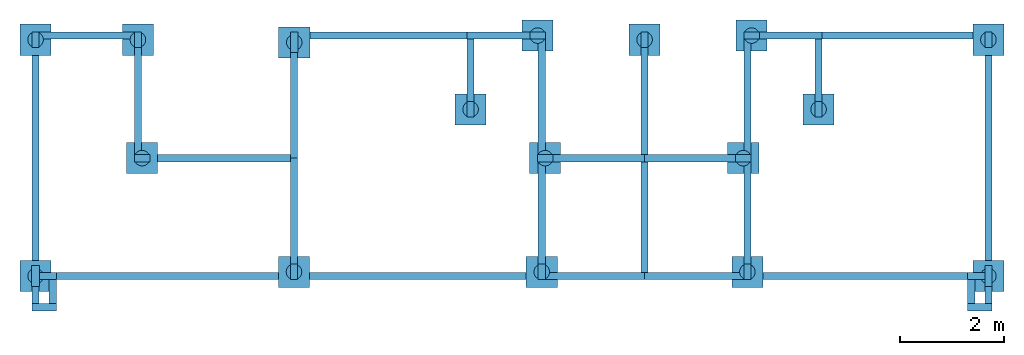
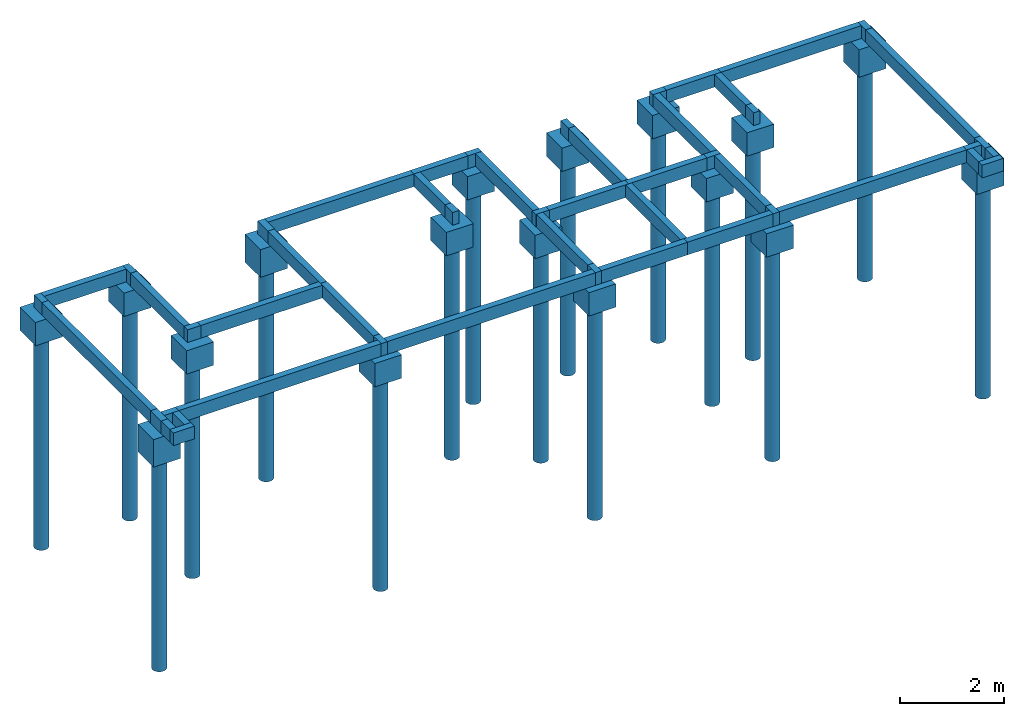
# One storey: 34 beams, 17 columns, 17 footings, 17 piles.
"""IFC4 building model written with IfcOpenShell, lengths in centimetres."""

import ifcopenshell
import ifcopenshell.guid

model = None  # the IFC model being written
_history = None  # IfcOwnerHistory: only IFC2X3 demands one
_inside = {}  # id of a spatial element -> (the spatial element, [elements in it])
_under = {}  # id of a project, library or spatial element -> (it, [spatial elements below it])
_declared = {}  # id of a project -> (the project, [libraries it declares])
_typed = {}  # id of a type object -> (the type object, [elements of that type])
_made_of = {}  # id of a material, layer set ... -> (it, [elements and type objects made of it])


def new_model(schema):
    """Start an empty IFC model of exactly this schema.

    Asked for "IFC4X3", IfcOpenShell would pick the latest addendum, in which some entities
    have other attributes; the version numbers below select the first issue.
    IFC2X3 requires an IfcOwnerHistory on every rooted entity: one is made here for all.
    """
    global model, _history
    if schema == "IFC4X3":
        model = ifcopenshell.file(schema_version=(4, 3, 0, 0))
    else:
        model = ifcopenshell.file(schema=schema)
    _inside.clear()
    _under.clear()
    _declared.clear()
    _typed.clear()
    _made_of.clear()
    _history = None
    if model.schema == "IFC2X3":
        org = make("IfcOrganization", Name="unknown")
        user = make(
            "IfcPersonAndOrganization",
            ThePerson=make("IfcPerson", FamilyName="unknown"),
            TheOrganization=org,
        )
        app = make(
            "IfcApplication",
            ApplicationDeveloper=org,
            Version="unknown",
            ApplicationFullName="unknown",
            ApplicationIdentifier="unknown",
        )
        _history = make(
            "IfcOwnerHistory",
            OwningUser=user,
            OwningApplication=app,
            ChangeAction="ADDED",
            CreationDate=0,
        )
    return model


def make(cls, **values):
    """One entity of the class cls with the attributes given. An attribute that is None is left unset."""
    return model.create_entity(
        cls, **{name: value for name, value in values.items() if value is not None}
    )


def rooted(cls, **values):
    """An entity with a GlobalId (a new one), such as an element, a storey or a relation."""
    return make(cls, GlobalId=ifcopenshell.guid.new(), OwnerHistory=_history, **values)


def si_unit(unit_type, name, prefix=None):
    """IfcSIUnit, for example si_unit("LENGTHUNIT", "METRE", prefix="MILLI")."""
    return make("IfcSIUnit", UnitType=unit_type, Prefix=prefix, Name=name)


def derived_unit(unit_type, elements):
    """IfcDerivedUnit: a product of units, each with its exponent."""
    return make(
        "IfcDerivedUnit",
        Elements=[
            make("IfcDerivedUnitElement", Unit=unit, Exponent=power)
            for unit, power in elements
        ],
        UnitType=unit_type,
    )


def assignment(units):
    """IfcUnitAssignment: the units of a project."""
    return None if units is None else make("IfcUnitAssignment", Units=units)


def point(xyz):
    """IfcCartesianPoint."""
    return None if xyz is None else make("IfcCartesianPoint", Coordinates=xyz)


def direction(xyz):
    """IfcDirection."""
    return None if xyz is None else make("IfcDirection", DirectionRatios=xyz)


def frame(location, z_axis=None, x_axis=None):
    """IfcAxis2Placement3D, a coordinate frame: its origin and axes. An axis left out is left unset."""
    return make(
        "IfcAxis2Placement3D",
        Location=point(location),
        Axis=direction(z_axis),
        RefDirection=direction(x_axis),
    )


def frame_2d(location, x_axis=None):
    """IfcAxis2Placement2D, a coordinate frame in the plane: its origin and x axis."""
    return make(
        "IfcAxis2Placement2D", Location=point(location), RefDirection=direction(x_axis)
    )


def origin_with_axes():
    """The frame at (0, 0, 0) with the z axis (0, 0, 1) and the x axis (1, 0, 0) written out."""
    return frame((0.0, 0.0, 0.0), z_axis=(0.0, 0.0, 1.0), x_axis=(1.0, 0.0, 0.0))


def origin_2d_with_axis():
    """The frame at (0, 0) in the plane with the x axis (1, 0) written out."""
    return frame_2d((0.0, 0.0), x_axis=(1.0, 0.0))


def place(relative_to, where):
    """IfcLocalPlacement: puts the frame where relative to a parent placement (None: the world)."""
    return make(
        "IfcLocalPlacement", PlacementRelTo=relative_to, RelativePlacement=where
    )


def context(
    kind, dimensions, precision=None, world=None, true_north=None, identifier=None
):
    """IfcGeometricRepresentationContext, for example the 3D "Model" context."""
    return make(
        "IfcGeometricRepresentationContext",
        ContextIdentifier=identifier,
        ContextType=kind,
        CoordinateSpaceDimension=dimensions,
        Precision=precision,
        WorldCoordinateSystem=world,
        TrueNorth=true_north,
    )


def project(units=None, contexts=None):
    """IfcProject with its units and contexts."""
    return rooted(
        "IfcProject",
        Name="project",
        RepresentationContexts=contexts,
        UnitsInContext=assignment(units),
    )


def spatial(cls, under=None, at=None, **own):
    """A site, building, storey or space (cls), placed at a placement, below another one or the project."""
    s = rooted(cls, ObjectPlacement=at, **own)
    if under is not None:
        _under.setdefault(under.id(), (under, []))[1].append(s)
    return s


def profile(cls, at=None, kind="AREA", **sizes):
    """A parametric profile (cls). Its sizes go by their IFC names, for example OverallWidth=200.0."""
    return make(cls, ProfileType=kind, Position=at, **sizes)


def rectangle(**sizes):
    """IfcRectangleProfileDef."""
    return profile("IfcRectangleProfileDef", **sizes)


def circle(**sizes):
    """IfcCircleProfileDef."""
    return profile("IfcCircleProfileDef", **sizes)


def extrude(swept, where, along, depth):
    """IfcExtrudedAreaSolid: the profile swept, set in the frame where, extruded along a direction by depth."""
    return make(
        "IfcExtrudedAreaSolid",
        SweptArea=swept,
        Position=where,
        ExtrudedDirection=direction(along),
        Depth=depth,
    )


def faces_of(points, faces, orient=None, outer=None):
    """IfcFace entities. A face is a list of loops; a loop is a list of indices into points, from 0.

    orient and outer hold one flag for each loop. By default every Orientation is true, the
    first loop of a face is its IfcFaceOuterBound and the others are IfcFaceBound.
    """
    made = []
    for i, loops in enumerate(faces):
        bounds = []
        for j, loop in enumerate(loops):
            is_outer = j == 0 if outer is None else outer[i][j]
            bounds.append(
                make(
                    "IfcFaceOuterBound" if is_outer else "IfcFaceBound",
                    Bound=make("IfcPolyLoop", Polygon=[points[k] for k in loop]),
                    Orientation=True if orient is None else orient[i][j],
                )
            )
        made.append(make("IfcFace", Bounds=bounds))
    return made


def faceted_brep(points, faces, orient=None, outer=None, voids=None):
    """IfcFacetedBrep: a solid bounded by flat faces; with voids (closed shells), ...WithVoids."""
    shared = [point(p) for p in points]
    hull = make("IfcClosedShell", CfsFaces=faces_of(shared, faces, orient, outer))
    if voids is None:
        return make("IfcFacetedBrep", Outer=hull)
    return make(
        "IfcFacetedBrepWithVoids",
        Outer=hull,
        Voids=[
            make(cls, CfsFaces=faces_of(shared, fs, o, b)) for cls, fs, o, b in voids
        ],
    )


def shape(context_of_items, identifier, shape_type, items):
    """IfcShapeRepresentation: the items that make up one representation, for example the "Body"."""
    return make(
        "IfcShapeRepresentation",
        ContextOfItems=context_of_items,
        RepresentationIdentifier=identifier,
        RepresentationType=shape_type,
        Items=items,
    )


def material(Name=None, Category=None):
    """IfcMaterial."""
    return make("IfcMaterial", Name=Name, Category=Category)


def made_of(thing, what):
    """Note that an element or type object is made of a material, layer set ...; save() writes the relation."""
    if what is not None:
        _made_of.setdefault(what.id(), (what, []))[1].append(thing)
    return thing


def element(
    cls,
    number,
    at=None,
    inside=None,
    cuts=None,
    type_object=None,
    material=None,
    context=None,
    identifier="Body",
    shape_type=None,
    held_by="IfcProductDefinitionShape",
    body=None,
    shapes=None,
    **own,
):
    """One element of the class cls, such as IfcWall. Its Tag is "e" and its number.

    at: its placement. inside: the storey or other place that contains it. cuts: it is an
    opening in that element (IfcRelVoidsElement). A single representation is given by context,
    identifier, shape_type and body (its items); several are given by shapes. held_by: the class
    of the entity that holds the representations. save() writes the other relations.
    """
    e = rooted(cls, Tag="e%d" % number, ObjectPlacement=at, **own)
    if body is not None:
        shapes = [shape(context, identifier, shape_type, body)]
    if shapes is not None:
        e.Representation = make(held_by, Representations=shapes)
    if inside is not None:
        _inside.setdefault(inside.id(), (inside, []))[1].append(e)
    if cuts is not None:
        rooted(
            "IfcRelVoidsElement", RelatingBuildingElement=cuts, RelatedOpeningElement=e
        )
    if type_object is not None:
        _typed.setdefault(type_object.id(), (type_object, []))[1].append(e)
    return made_of(e, material)


def aggregate(whole, parts):
    """IfcRelAggregates: a whole, such as a stair, and the parts it consists of."""
    return rooted("IfcRelAggregates", RelatingObject=whole, RelatedObjects=parts)


def save(model, path):
    """Write the relations noted so far, then the file.

    IfcRelAggregates (storeys below a building ...), IfcRelContainedInSpatialStructure (elements
    in a storey), IfcRelDefinesByType, IfcRelAssociatesMaterial and IfcRelDeclares: one each for
    every whole, place, type object, material and project.
    """
    for whole, parts in _under.values():
        aggregate(whole, parts)
    for where, things in _inside.values():
        rooted(
            "IfcRelContainedInSpatialStructure",
            RelatedElements=things,
            RelatingStructure=where,
        )
    for kind, things in _typed.values():
        rooted("IfcRelDefinesByType", RelatedObjects=things, RelatingType=kind)
    for what, things in _made_of.values():
        rooted("IfcRelAssociatesMaterial", RelatedObjects=things, RelatingMaterial=what)
    for by, libraries in _declared.values():
        rooted("IfcRelDeclares", RelatingContext=by, RelatedDefinitions=libraries)
    model.write(path)


model = new_model("IFC4")

# Units and contexts
model_context = context("Model", 3, precision=1e-05, world=origin_with_axes(), identifier="Body")
ifc_project = project(units=[si_unit("LENGTHUNIT", "METRE", prefix="CENTI"), si_unit("VOLUMEUNIT", "CUBIC_METRE"), si_unit("AREAUNIT", "SQUARE_METRE"), si_unit("POWERUNIT", "WATT"), si_unit("LUMINOUSFLUXUNIT", "LUMEN"), si_unit("ELECTRICCURRENTUNIT", "AMPERE"), si_unit("PRESSUREUNIT", "PASCAL", prefix="KILO"), si_unit("MASSUNIT", "GRAM", prefix="KILO"), si_unit("PLANEANGLEUNIT", "RADIAN"), derived_unit("VOLUMETRICFLOWRATEUNIT", [(si_unit("LENGTHUNIT", "METRE"), 3), (si_unit("TIMEUNIT", "SECOND"), -1)])], contexts=[model_context])

# Site, building, storey
site_placement = place(None, origin_with_axes())
site = spatial("IfcSite", under=ifc_project, at=site_placement)
building_placement = place(site_placement, frame((0.0, 0.0, 2.0)))
building = spatial("IfcBuilding", under=site, at=building_placement)
storey_placement = place(building_placement, origin_with_axes())
storey = spatial("IfcBuildingStorey", under=building, at=storey_placement, Name="BALDRAME (FUNDAÇÃO)", CompositionType="ELEMENT", Elevation=2.0)

# Footings
ifc_material = material(Name="Concreto")
footing_1_placement = place(storey_placement, frame((8.5, 523.64, -30.0), z_axis=(0.0, 0.0, 1.0), x_axis=(1.0, 0.0, 0.0)))
element("IfcFooting", 1, at=footing_1_placement, inside=storey, material=ifc_material, Name="P1", context=model_context, shape_type="SolidModel", body=[
    faceted_brep([(30.0, 30.0, -55.0), (30.0, -30.0, -55.0), (-30.0, -30.0, -55.0), (-30.0, 30.0, -55.0), (-30.0, 30.0, 0.0), (-30.0, -30.0, 0.0), (30.0, -30.0, 0.0), (30.0, 30.0, 0.0)], [[[0, 1, 2, 3]], [[4, 5, 6, 7]], [[4, 3, 5]], [[3, 2, 5]], [[5, 2, 6]], [[2, 1, 6]], [[6, 1, 7]], [[1, 0, 7]], [[7, 0, 4]], [[0, 3, 4]]]),
])
for number, where, z_axis, x_axis, name in (
    (2, (213.55, 295.57, -30.0), (0.0, 0.0, 1.0), (1.0, 0.0, 0.0), "P10"),
    (3, (989.78, 295.58, -30.0), (0.0, 0.0, 1.0), (1.0, 0.0, 0.0), "P11"),
    (4, (1371.38, 295.58, -30.0), (0.0, 0.0, 1.0), (1.0, 0.0, 0.0), "P12"),
):
    element("IfcFooting", number, at=place(storey_placement, frame(where, z_axis=z_axis, x_axis=x_axis)), inside=storey, material=ifc_material, Name=name, context=model_context, shape_type="SolidModel", body=[
        faceted_brep([(30.0, -30.0, -55.0), (-30.0, -30.0, -55.0), (-30.0, 30.0, -55.0), (30.0, 30.0, -55.0), (30.0, 30.0, 0.0), (-30.0, 30.0, 0.0), (-30.0, -30.0, 0.0), (30.0, -30.0, 0.0)], [[[0, 1, 2, 3]], [[4, 5, 6, 7]], [[4, 3, 5]], [[3, 2, 5]], [[5, 2, 6]], [[2, 1, 6]], [[6, 1, 7]], [[1, 0, 7]], [[7, 0, 4]], [[0, 3, 4]]]),
    ])
footing_2_placement = place(storey_placement, frame((8.5, 68.52, -30.0), z_axis=(0.0, 0.0, 1.0), x_axis=(1.0, 0.0, 0.0)))
element("IfcFooting", 5, at=footing_2_placement, inside=storey, material=ifc_material, Name="P13", context=model_context, shape_type="SolidModel", body=[
    faceted_brep([(-30.0, -30.0, -65.0), (-30.0, 30.0, -65.0), (30.0, 30.0, -65.0), (30.0, -30.0, -65.0), (30.0, -30.0, 0.0), (30.0, 30.0, 0.0), (-30.0, 30.0, 0.0), (-30.0, -30.0, 0.0)], [[[0, 1, 2, 3]], [[4, 5, 6, 7]], [[4, 3, 5]], [[3, 2, 5]], [[5, 2, 6]], [[2, 1, 6]], [[6, 1, 7]], [[1, 0, 7]], [[7, 0, 4]], [[0, 3, 4]]]),
])
footing_3_placement = place(storey_placement, frame((506.17, 76.52, -30.0), z_axis=(0.0, 0.0, 1.0), x_axis=(1.0, 0.0, 0.0)))
element("IfcFooting", 6, at=footing_3_placement, inside=storey, material=ifc_material, Name="P14", context=model_context, shape_type="SolidModel", body=[
    faceted_brep([(-30.0, -30.0, -55.0), (-30.0, 30.0, -55.0), (30.0, 30.0, -55.0), (30.0, -30.0, -55.0), (30.0, -30.0, 0.0), (30.0, 30.0, 0.0), (-30.0, 30.0, 0.0), (-30.0, -30.0, 0.0)], [[[0, 1, 2, 3]], [[4, 5, 6, 7]], [[4, 3, 5]], [[3, 2, 5]], [[5, 2, 6]], [[2, 1, 6]], [[6, 1, 7]], [[1, 0, 7]], [[7, 0, 4]], [[0, 3, 4]]]),
])
footing_4_placement = place(storey_placement, frame((983.28, 76.52, -30.0), z_axis=(0.0, 0.0, 1.0), x_axis=(1.0, 0.0, 0.0)))
element("IfcFooting", 7, at=footing_4_placement, inside=storey, material=ifc_material, Name="P15", context=model_context, shape_type="SolidModel", body=[
    faceted_brep([(30.0, 30.0, -55.0), (30.0, -30.0, -55.0), (-30.0, -30.0, -55.0), (-30.0, 30.0, -55.0), (-30.0, 30.0, 0.0), (-30.0, -30.0, 0.0), (30.0, -30.0, 0.0), (30.0, 30.0, 0.0)], [[[0, 1, 2, 3]], [[4, 5, 6, 7]], [[4, 3, 5]], [[3, 2, 5]], [[5, 2, 6]], [[2, 1, 6]], [[6, 1, 7]], [[1, 0, 7]], [[7, 0, 4]], [[0, 3, 4]]]),
])
footing_5_placement = place(storey_placement, frame((1379.38, 76.52, -30.0), z_axis=(0.0, 0.0, 1.0), x_axis=(1.0, 0.0, 0.0)))
element("IfcFooting", 8, at=footing_5_placement, inside=storey, material=ifc_material, Name="P16", context=model_context, shape_type="SolidModel", body=[
    faceted_brep([(-30.0, -30.0, -55.0), (-30.0, 30.0, -55.0), (30.0, 30.0, -55.0), (30.0, -30.0, -55.0), (30.0, -30.0, 0.0), (30.0, 30.0, 0.0), (-30.0, 30.0, 0.0), (-30.0, -30.0, 0.0)], [[[0, 1, 2, 3]], [[4, 5, 6, 7]], [[4, 3, 5]], [[3, 2, 5]], [[5, 2, 6]], [[2, 1, 6]], [[6, 1, 7]], [[1, 0, 7]], [[7, 0, 4]], [[0, 3, 4]]]),
])
footing_6_placement = place(storey_placement, frame((1843.5, 68.52, -30.0), z_axis=(0.0, 0.0, 1.0), x_axis=(1.0, 0.0, 0.0)))
element("IfcFooting", 9, at=footing_6_placement, inside=storey, material=ifc_material, Name="P17", context=model_context, shape_type="SolidModel", body=[
    faceted_brep([(-30.0, -30.0, -65.0), (-30.0, 30.0, -65.0), (30.0, 30.0, -65.0), (30.0, -30.0, -65.0), (30.0, -30.0, 0.0), (30.0, 30.0, 0.0), (-30.0, 30.0, 0.0), (-30.0, -30.0, 0.0)], [[[0, 1, 2, 3]], [[4, 5, 6, 7]], [[4, 3, 5]], [[3, 2, 5]], [[5, 2, 6]], [[2, 1, 6]], [[6, 1, 7]], [[1, 0, 7]], [[7, 0, 4]], [[0, 3, 4]]]),
])
footing_7_placement = place(storey_placement, frame((205.55, 523.63, -30.0), z_axis=(0.0, 0.0, 1.0), x_axis=(1.0, 0.0, 0.0)))
element("IfcFooting", 10, at=footing_7_placement, inside=storey, material=ifc_material, Name="P2", context=model_context, shape_type="SolidModel", body=[
    faceted_brep([(-30.0, -30.0, -55.0), (-30.0, 30.0, -55.0), (30.0, 30.0, -55.0), (30.0, -30.0, -55.0), (30.0, -30.0, 0.0), (30.0, 30.0, 0.0), (-30.0, 30.0, 0.0), (-30.0, -30.0, 0.0)], [[[0, 1, 2, 3]], [[4, 5, 6, 7]], [[4, 3, 5]], [[3, 2, 5]], [[5, 2, 6]], [[2, 1, 6]], [[6, 1, 7]], [[1, 0, 7]], [[7, 0, 4]], [[0, 3, 4]]]),
])
footing_8_placement = place(storey_placement, frame((506.65, 518.63, -30.0), z_axis=(0.0, 0.0, 1.0), x_axis=(1.0, 0.0, 0.0)))
element("IfcFooting", 11, at=footing_8_placement, inside=storey, material=ifc_material, Name="P3", context=model_context, shape_type="SolidModel", body=[
    faceted_brep([(30.0, 30.0, -65.0), (30.0, -30.0, -65.0), (-30.0, -30.0, -65.0), (-30.0, 30.0, -65.0), (-30.0, 30.0, 0.0), (-30.0, -30.0, 0.0), (30.0, -30.0, 0.0), (30.0, 30.0, 0.0)], [[[0, 1, 2, 3]], [[4, 5, 6, 7]], [[4, 3, 5]], [[3, 2, 5]], [[5, 2, 6]], [[2, 1, 6]], [[6, 1, 7]], [[1, 0, 7]], [[7, 0, 4]], [[0, 3, 4]]]),
])
footing_9_placement = place(storey_placement, frame((975.28, 531.64, -30.0), z_axis=(0.0, 0.0, 1.0), x_axis=(1.0, 0.0, 0.0)))
element("IfcFooting", 12, at=footing_9_placement, inside=storey, material=ifc_material, Name="P4", context=model_context, shape_type="SolidModel", body=[
    faceted_brep([(30.0, -30.0, -55.0), (-30.0, -30.0, -55.0), (-30.0, 30.0, -55.0), (30.0, 30.0, -55.0), (30.0, 30.0, 0.0), (-30.0, 30.0, 0.0), (-30.0, -30.0, 0.0), (30.0, -30.0, 0.0)], [[[0, 1, 2, 3]], [[4, 5, 6, 7]], [[4, 3, 5]], [[3, 2, 5]], [[5, 2, 6]], [[2, 1, 6]], [[6, 1, 7]], [[1, 0, 7]], [[7, 0, 4]], [[0, 3, 4]]]),
])
footing_10_placement = place(storey_placement, frame((1181.33, 523.64, -30.0), z_axis=(0.0, 0.0, 1.0), x_axis=(1.0, 0.0, 0.0)))
element("IfcFooting", 13, at=footing_10_placement, inside=storey, material=ifc_material, Name="P5", context=model_context, shape_type="SolidModel", body=[
    faceted_brep([(30.0, 30.0, -55.0), (30.0, -30.0, -55.0), (-30.0, -30.0, -55.0), (-30.0, 30.0, -55.0), (-30.0, 30.0, 0.0), (-30.0, -30.0, 0.0), (30.0, -30.0, 0.0), (30.0, 30.0, 0.0)], [[[0, 1, 2, 3]], [[4, 5, 6, 7]], [[4, 3, 5]], [[3, 2, 5]], [[5, 2, 6]], [[2, 1, 6]], [[6, 1, 7]], [[1, 0, 7]], [[7, 0, 4]], [[0, 3, 4]]]),
])
footing_11_placement = place(storey_placement, frame((1387.38, 531.64, -30.0), z_axis=(0.0, 0.0, 1.0), x_axis=(1.0, 0.0, 0.0)))
element("IfcFooting", 14, at=footing_11_placement, inside=storey, material=ifc_material, Name="P6", context=model_context, shape_type="SolidModel", body=[
    faceted_brep([(30.0, -30.0, -55.0), (-30.0, -30.0, -55.0), (-30.0, 30.0, -55.0), (30.0, 30.0, -55.0), (30.0, 30.0, 0.0), (-30.0, 30.0, 0.0), (-30.0, -30.0, 0.0), (30.0, -30.0, 0.0)], [[[0, 1, 2, 3]], [[4, 5, 6, 7]], [[4, 3, 5]], [[3, 2, 5]], [[5, 2, 6]], [[2, 1, 6]], [[6, 1, 7]], [[1, 0, 7]], [[7, 0, 4]], [[0, 3, 4]]]),
])
footing_12_placement = place(storey_placement, frame((1843.5, 523.64, -30.0), z_axis=(0.0, 0.0, 1.0), x_axis=(1.0, 0.0, 0.0)))
element("IfcFooting", 15, at=footing_12_placement, inside=storey, material=ifc_material, Name="P7", context=model_context, shape_type="SolidModel", body=[
    faceted_brep([(30.0, 30.0, -65.0), (30.0, -30.0, -65.0), (-30.0, -30.0, -65.0), (-30.0, 30.0, -65.0), (-30.0, 30.0, 0.0), (-30.0, -30.0, 0.0), (30.0, -30.0, 0.0), (30.0, 30.0, 0.0)], [[[0, 1, 2, 3]], [[4, 5, 6, 7]], [[4, 3, 5]], [[3, 2, 5]], [[5, 2, 6]], [[2, 1, 6]], [[6, 1, 7]], [[1, 0, 7]], [[7, 0, 4]], [[0, 3, 4]]]),
])
footing_13_placement = place(storey_placement, frame((846.24, 389.59, -30.0), z_axis=(0.0, 0.0, 1.0), x_axis=(1.0, 0.0, 0.0)))
element("IfcFooting", 16, at=footing_13_placement, inside=storey, material=ifc_material, Name="P8", context=model_context, shape_type="SolidModel", body=[
    faceted_brep([(30.0, 30.0, -55.0), (30.0, -30.0, -55.0), (-30.0, -30.0, -55.0), (-30.0, 30.0, -55.0), (-30.0, 30.0, 0.0), (-30.0, -30.0, 0.0), (30.0, -30.0, 0.0), (30.0, 30.0, 0.0)], [[[0, 1, 2, 3]], [[4, 5, 6, 7]], [[4, 3, 5]], [[3, 2, 5]], [[5, 2, 6]], [[2, 1, 6]], [[6, 1, 7]], [[1, 0, 7]], [[7, 0, 4]], [[0, 3, 4]]]),
])
footing_14_placement = place(storey_placement, frame((1516.42, 389.59, -30.0), z_axis=(0.0, 0.0, 1.0), x_axis=(1.0, 0.0, 0.0)))
element("IfcFooting", 17, at=footing_14_placement, inside=storey, material=ifc_material, Name="P9", context=model_context, shape_type="SolidModel", body=[
    faceted_brep([(-30.0, -30.0, -55.0), (-30.0, 30.0, -55.0), (30.0, 30.0, -55.0), (30.0, -30.0, -55.0), (30.0, -30.0, 0.0), (30.0, 30.0, 0.0), (-30.0, 30.0, 0.0), (-30.0, -30.0, 0.0)], [[[0, 1, 2, 3]], [[4, 5, 6, 7]], [[4, 3, 5]], [[3, 2, 5]], [[5, 2, 6]], [[2, 1, 6]], [[6, 1, 7]], [[1, 0, 7]], [[7, 0, 4]], [[0, 3, 4]]]),
])

# Piles
for number, where, z_axis, x_axis, name in (
    (18, (8.5, 523.64, -70.0), (0.0, 0.0, 1.0), (1.0, 0.0, 0.0), "E1-1"),
    (19, (213.55, 295.57, -70.0), (0.0, 0.0, 1.0), (1.0, 0.0, 0.0), "E10-1"),
    (20, (989.78, 295.58, -70.0), (0.0, 0.0, 1.0), (1.0, 0.0, 0.0), "E11-1"),
    (21, (1371.38, 295.58, -70.0), (0.0, 0.0, 1.0), (1.0, 0.0, 0.0), "E12-1"),
    (22, (8.5, 68.52, -80.0), (0.0, 0.0, 1.0), (1.0, 0.0, 0.0), "E13-1"),
    (23, (506.17, 76.52, -70.0), (0.0, 0.0, 1.0), (1.0, 0.0, 0.0), "E14-1"),
    (24, (983.28, 76.52, -70.0), (0.0, 0.0, 1.0), (1.0, 0.0, 0.0), "E15-1"),
    (25, (1379.38, 76.52, -70.0), (0.0, 0.0, 1.0), (1.0, 0.0, 0.0), "E16-1"),
    (26, (1843.5, 68.52, -80.0), (0.0, 0.0, 1.0), (1.0, 0.0, 0.0), "E17-1"),
    (27, (205.55, 523.63, -70.0), (0.0, 0.0, 1.0), (1.0, 0.0, 0.0), "E2-1"),
    (28, (506.65, 518.63, -80.0), (0.0, 0.0, 1.0), (1.0, 0.0, 0.0), "E3-1"),
    (29, (975.28, 531.64, -70.0), (0.0, 0.0, 1.0), (1.0, 0.0, 0.0), "E4-1"),
    (30, (1181.33, 523.64, -70.0), (0.0, 0.0, 1.0), (1.0, 0.0, 0.0), "E5-1"),
    (31, (1387.38, 531.64, -70.0), (0.0, 0.0, 1.0), (1.0, 0.0, 0.0), "E6-1"),
    (32, (1843.5, 523.64, -80.0), (0.0, 0.0, 1.0), (1.0, 0.0, 0.0), "E7-1"),
    (33, (846.24, 389.59, -70.0), (0.0, 0.0, 1.0), (1.0, 0.0, 0.0), "E8-1"),
    (34, (1516.42, 389.59, -70.0), (0.0, 0.0, 1.0), (1.0, 0.0, 0.0), "E9-1"),
):
    element("IfcPile", number, at=place(storey_placement, frame(where, z_axis=z_axis, x_axis=x_axis)), inside=storey, material=ifc_material, Name=name, context=model_context, shape_type="SweptSolid", body=[
        extrude(circle(Radius=15.0, at=origin_2d_with_axis()), frame((0.0, 0.0, -515.0), z_axis=(0.0, 0.0, 1.0), x_axis=(1.0, 0.0, 0.0)), (0.0, 0.0, 1.0), 515.0),
    ])

# Columns
column_1_placement = place(storey_placement, frame((8.5, 523.64, 0.0), z_axis=(0.0, 0.0, 1.0), x_axis=(1.0, 0.0, 0.0)))
element("IfcColumn", 35, at=column_1_placement, inside=storey, material=ifc_material, Name="P1", context=model_context, shape_type="SolidModel", body=[
    extrude(rectangle(XDim=14.0, YDim=30.0, at=origin_2d_with_axis()), frame((0.0, 0.0, -30.0), z_axis=(0.0, 0.0, 1.0), x_axis=(1.0, 0.0, 0.0)), (0.0, 0.0, 1.0), 30.0),
])
for number, where, z_axis, x_axis, name in (
    (36, (213.55, 295.57, 0.0), (0.0, 0.0, 1.0), (1.0, 0.0, 0.0), "P10"),
    (37, (989.78, 295.58, 0.0), (0.0, 0.0, 1.0), (1.0, 0.0, 0.0), "P11"),
    (38, (1371.38, 295.58, 0.0), (0.0, 0.0, 1.0), (1.0, 0.0, 0.0), "P12"),
):
    element("IfcColumn", number, at=place(storey_placement, frame(where, z_axis=z_axis, x_axis=x_axis)), inside=storey, material=ifc_material, Name=name, context=model_context, shape_type="SolidModel", body=[
        extrude(rectangle(XDim=14.0, YDim=30.0, at=origin_2d_with_axis()), frame((0.0, 0.0, -30.0), z_axis=(0.0, 0.0, 1.0), x_axis=(0.0, -1.0, 0.0)), (0.0, 0.0, 1.0), 30.0),
    ])
column_2_placement = place(storey_placement, frame((8.5, 68.52, 0.0), z_axis=(0.0, 0.0, 1.0), x_axis=(1.0, 0.0, 0.0)))
element("IfcColumn", 39, at=column_2_placement, inside=storey, material=ifc_material, Name="P13", context=model_context, shape_type="SolidModel", body=[
    extrude(rectangle(XDim=15.0, YDim=40.0, at=origin_2d_with_axis()), frame((0.0, 0.0, -30.0), z_axis=(0.0, 0.0, 1.0), x_axis=(-1.0, 0.0, 0.0)), (0.0, 0.0, 1.0), 30.0),
])
column_3_placement = place(storey_placement, frame((506.17, 76.52, 0.0), z_axis=(0.0, 0.0, 1.0), x_axis=(1.0, 0.0, 0.0)))
element("IfcColumn", 40, at=column_3_placement, inside=storey, material=ifc_material, Name="P14", context=model_context, shape_type="SolidModel", body=[
    extrude(rectangle(XDim=14.0, YDim=30.0, at=origin_2d_with_axis()), frame((0.0, 0.0, -30.0), z_axis=(0.0, 0.0, 1.0), x_axis=(-1.0, 0.0, 0.0)), (0.0, 0.0, 1.0), 30.0),
])
column_4_placement = place(storey_placement, frame((983.28, 76.52, 0.0), z_axis=(0.0, 0.0, 1.0), x_axis=(1.0, 0.0, 0.0)))
element("IfcColumn", 41, at=column_4_placement, inside=storey, material=ifc_material, Name="P15", context=model_context, shape_type="SolidModel", body=[
    extrude(rectangle(XDim=14.0, YDim=30.0, at=origin_2d_with_axis()), frame((0.0, 0.0, -30.0), z_axis=(0.0, 0.0, 1.0), x_axis=(1.0, 0.0, 0.0)), (0.0, 0.0, 1.0), 30.0),
])
column_5_placement = place(storey_placement, frame((1379.38, 76.52, 0.0), z_axis=(0.0, 0.0, 1.0), x_axis=(1.0, 0.0, 0.0)))
element("IfcColumn", 42, at=column_5_placement, inside=storey, material=ifc_material, Name="P16", context=model_context, shape_type="SolidModel", body=[
    extrude(rectangle(XDim=14.0, YDim=30.0, at=origin_2d_with_axis()), frame((0.0, 0.0, -30.0), z_axis=(0.0, 0.0, 1.0), x_axis=(-1.0, 0.0, 0.0)), (0.0, 0.0, 1.0), 30.0),
])
column_6_placement = place(storey_placement, frame((1843.5, 68.52, 0.0), z_axis=(0.0, 0.0, 1.0), x_axis=(1.0, 0.0, 0.0)))
element("IfcColumn", 43, at=column_6_placement, inside=storey, material=ifc_material, Name="P17", context=model_context, shape_type="SolidModel", body=[
    extrude(rectangle(XDim=14.0, YDim=40.0, at=origin_2d_with_axis()), frame((0.0, 0.0, -30.0), z_axis=(0.0, 0.0, 1.0), x_axis=(-1.0, 0.0, 0.0)), (0.0, 0.0, 1.0), 30.0),
])
column_7_placement = place(storey_placement, frame((205.55, 523.63, 0.0), z_axis=(0.0, 0.0, 1.0), x_axis=(1.0, 0.0, 0.0)))
element("IfcColumn", 44, at=column_7_placement, inside=storey, material=ifc_material, Name="P2", context=model_context, shape_type="SolidModel", body=[
    extrude(rectangle(XDim=14.0, YDim=30.0, at=origin_2d_with_axis()), frame((0.0, 0.0, -30.0), z_axis=(0.0, 0.0, 1.0), x_axis=(-1.0, 0.0, 0.0)), (0.0, 0.0, 1.0), 30.0),
])
column_8_placement = place(storey_placement, frame((506.65, 518.63, 0.0), z_axis=(0.0, 0.0, 1.0), x_axis=(1.0, 0.0, 0.0)))
element("IfcColumn", 45, at=column_8_placement, inside=storey, material=ifc_material, Name="P3", context=model_context, shape_type="SolidModel", body=[
    extrude(rectangle(XDim=15.0, YDim=40.0, at=origin_2d_with_axis()), frame((0.0, 0.0, -30.0), z_axis=(0.0, 0.0, 1.0), x_axis=(1.0, 0.0, 0.0)), (0.0, 0.0, 1.0), 30.0),
])
column_9_placement = place(storey_placement, frame((975.28, 531.64, 0.0), z_axis=(0.0, 0.0, 1.0), x_axis=(1.0, 0.0, 0.0)))
element("IfcColumn", 46, at=column_9_placement, inside=storey, material=ifc_material, Name="P4", context=model_context, shape_type="SolidModel", body=[
    extrude(rectangle(XDim=14.0, YDim=30.0, at=origin_2d_with_axis()), frame((0.0, 0.0, -30.0), z_axis=(0.0, 0.0, 1.0), x_axis=(0.0, -1.0, 0.0)), (0.0, 0.0, 1.0), 30.0),
])
column_10_placement = place(storey_placement, frame((1181.33, 523.64, 0.0), z_axis=(0.0, 0.0, 1.0), x_axis=(1.0, 0.0, 0.0)))
element("IfcColumn", 47, at=column_10_placement, inside=storey, material=ifc_material, Name="P5", context=model_context, shape_type="SolidModel", body=[
    extrude(rectangle(XDim=14.0, YDim=30.0, at=origin_2d_with_axis()), frame((0.0, 0.0, -30.0), z_axis=(0.0, 0.0, 1.0), x_axis=(1.0, 0.0, 0.0)), (0.0, 0.0, 1.0), 30.0),
])
column_11_placement = place(storey_placement, frame((1387.38, 531.64, 0.0), z_axis=(0.0, 0.0, 1.0), x_axis=(1.0, 0.0, 0.0)))
element("IfcColumn", 48, at=column_11_placement, inside=storey, material=ifc_material, Name="P6", context=model_context, shape_type="SolidModel", body=[
    extrude(rectangle(XDim=14.0, YDim=30.0, at=origin_2d_with_axis()), frame((0.0, 0.0, -30.0), z_axis=(0.0, 0.0, 1.0), x_axis=(0.0, -1.0, 0.0)), (0.0, 0.0, 1.0), 30.0),
])
for number, where, z_axis, x_axis, name in (
    (49, (1843.5, 523.64, 0.0), (0.0, 0.0, 1.0), (1.0, 0.0, 0.0), "P7"),
    (50, (846.24, 389.59, 0.0), (0.0, 0.0, 1.0), (1.0, 0.0, 0.0), "P8"),
):
    element("IfcColumn", number, at=place(storey_placement, frame(where, z_axis=z_axis, x_axis=x_axis)), inside=storey, material=ifc_material, Name=name, context=model_context, shape_type="SolidModel", body=[
        extrude(rectangle(XDim=14.0, YDim=30.0, at=origin_2d_with_axis()), frame((0.0, 0.0, -30.0), z_axis=(0.0, 0.0, 1.0), x_axis=(1.0, 0.0, 0.0)), (0.0, 0.0, 1.0), 30.0),
    ])
column_12_placement = place(storey_placement, frame((1516.42, 389.59, 0.0), z_axis=(0.0, 0.0, 1.0), x_axis=(1.0, 0.0, 0.0)))
element("IfcColumn", 51, at=column_12_placement, inside=storey, material=ifc_material, Name="P9", context=model_context, shape_type="SolidModel", body=[
    extrude(rectangle(XDim=14.0, YDim=30.0, at=origin_2d_with_axis()), frame((0.0, 0.0, -30.0), z_axis=(0.0, 0.0, 1.0), x_axis=(-1.0, 0.0, 0.0)), (0.0, 0.0, 1.0), 30.0),
])

# Beams
beam_1_placement = place(storey_placement, frame((107.025, 531.64, 0.0), z_axis=(0.0, 0.0, 1.0), x_axis=(1.0, 0.0, 0.0)))
element("IfcBeam", 52, at=beam_1_placement, inside=storey, material=ifc_material, Name="V1", context=model_context, shape_type="SolidModel", body=[
    extrude(rectangle(XDim=14.0, YDim=30.0, at=origin_2d_with_axis()), frame((-91.525, 0.0, -15.0), z_axis=(1.0, 0.0, 0.0), x_axis=(0.0, 1.0, 0.0)), (0.0, 0.0, 1.0), 183.05),
])
beam_2_placement = place(storey_placement, frame((983.28, 413.61, 0.0), z_axis=(0.0, 0.0, 1.0), x_axis=(1.0, 0.0, 0.0)))
element("IfcBeam", 53, at=beam_2_placement, inside=storey, material=ifc_material, Name="V10", context=model_context, shape_type="SolidModel", body=[
    extrude(rectangle(XDim=14.0, YDim=30.0, at=origin_2d_with_axis()), frame((0.0, -111.03, -15.0), z_axis=(0.0, 1.0, 0.0), x_axis=(1.0, 0.0, 0.0)), (0.0, 0.0, 1.0), 222.06),
])
beam_3_placement = place(storey_placement, frame((983.28, 190.05, 0.0), z_axis=(0.0, 0.0, 1.0), x_axis=(1.0, 0.0, 0.0)))
element("IfcBeam", 54, at=beam_3_placement, inside=storey, material=ifc_material, Name="V10", context=model_context, shape_type="SolidModel", body=[
    extrude(rectangle(XDim=14.0, YDim=30.0, at=origin_2d_with_axis()), frame((0.0, -98.53, -15.0), z_axis=(0.0, 1.0, 0.0), x_axis=(1.0, 0.0, 0.0)), (0.0, 0.0, 1.0), 197.06),
])
beam_4_placement = place(storey_placement, frame((1181.33, 402.11, 0.0), z_axis=(0.0, 0.0, 1.0), x_axis=(1.0, 0.0, 0.0)))
element("IfcBeam", 55, at=beam_4_placement, inside=storey, material=ifc_material, Name="V11", context=model_context, shape_type="SolidModel", body=[
    extrude(rectangle(XDim=14.0, YDim=30.0, at=origin_2d_with_axis()), frame((0.0, -106.53, -15.0), z_axis=(0.0, 1.0, 0.0), x_axis=(1.0, 0.0, 0.0)), (0.0, 0.0, 1.0), 213.06),
])
beam_5_placement = place(storey_placement, frame((1181.33, 182.05, 0.0), z_axis=(0.0, 0.0, 1.0), x_axis=(1.0, 0.0, 0.0)))
element("IfcBeam", 56, at=beam_5_placement, inside=storey, material=ifc_material, Name="V11", context=model_context, shape_type="SolidModel", body=[
    extrude(rectangle(XDim=14.0, YDim=30.0, at=origin_2d_with_axis()), frame((0.0, -113.53, -15.0), z_axis=(0.0, 1.0, 0.0), x_axis=(1.0, 0.0, 0.0)), (0.0, 0.0, 1.0), 227.06),
])
beam_6_placement = place(storey_placement, frame((1379.38, 413.61, 0.0), z_axis=(0.0, 0.0, 1.0), x_axis=(1.0, 0.0, 0.0)))
element("IfcBeam", 57, at=beam_6_placement, inside=storey, material=ifc_material, Name="V12", context=model_context, shape_type="SolidModel", body=[
    extrude(rectangle(XDim=14.0, YDim=30.0, at=origin_2d_with_axis()), frame((0.0, -111.03, -15.0), z_axis=(0.0, 1.0, 0.0), x_axis=(1.0, 0.0, 0.0)), (0.0, 0.0, 1.0), 222.06),
])
beam_7_placement = place(storey_placement, frame((1379.38, 190.05, 0.0), z_axis=(0.0, 0.0, 1.0), x_axis=(1.0, 0.0, 0.0)))
element("IfcBeam", 58, at=beam_7_placement, inside=storey, material=ifc_material, Name="V12", context=model_context, shape_type="SolidModel", body=[
    extrude(rectangle(XDim=14.0, YDim=30.0, at=origin_2d_with_axis()), frame((0.0, -98.53, -15.0), z_axis=(0.0, 1.0, 0.0), x_axis=(1.0, 0.0, 0.0)), (0.0, 0.0, 1.0), 197.06),
])
beam_8_placement = place(storey_placement, frame((1516.42, 464.615, 0.0), z_axis=(0.0, 0.0, 1.0), x_axis=(1.0, 0.0, 0.0)))
element("IfcBeam", 59, at=beam_8_placement, inside=storey, material=ifc_material, Name="V13", context=model_context, shape_type="SolidModel", body=[
    extrude(rectangle(XDim=14.0, YDim=30.0, at=origin_2d_with_axis()), frame((0.0, -60.025, -15.0), z_axis=(0.0, 1.0, 0.0), x_axis=(1.0, 0.0, 0.0)), (0.0, 0.0, 1.0), 120.05),
])
beam_9_placement = place(storey_placement, frame((8.5, 298.58, 0.0), z_axis=(0.0, 0.0, 1.0), x_axis=(1.0, 0.0, 0.0)))
element("IfcBeam", 60, at=beam_9_placement, inside=storey, material=ifc_material, Name="V14", context=model_context, shape_type="SolidModel", body=[
    extrude(rectangle(XDim=14.0, YDim=30.0, at=origin_2d_with_axis()), frame((0.0, -210.06, -15.0), z_axis=(0.0, 1.0, 0.0), x_axis=(-1.0, 0.0, 0.0)), (0.0, 0.0, 1.0), 420.12),
])
beam_10_placement = place(storey_placement, frame((41.51, 38.51, 0.0), z_axis=(0.0, 0.0, 1.0), x_axis=(1.0, 0.0, 0.0)))
element("IfcBeam", 61, at=beam_10_placement, inside=storey, material=ifc_material, Name="V14", context=model_context, shape_type="SolidModel", body=[
    extrude(rectangle(XDim=14.0, YDim=30.0, at=origin_2d_with_axis()), frame((0.0, 23.01, -15.0), z_axis=(0.0, -1.0, 0.0), x_axis=(1.0, 0.0, 0.0)), (0.0, 0.0, 1.0), 46.02),
])
beam_11_placement = place(storey_placement, frame((25.005, 8.5, 0.0), z_axis=(0.0, 0.0, 1.0), x_axis=(1.0, 0.0, 0.0)))
element("IfcBeam", 62, at=beam_11_placement, inside=storey, material=ifc_material, Name="V14", context=model_context, shape_type="SolidModel", body=[
    extrude(rectangle(XDim=14.0, YDim=30.0, at=origin_2d_with_axis()), frame((23.505, 0.0, -15.0), z_axis=(-1.0, 0.0, 0.0), x_axis=(0.0, 1.0, 0.0)), (0.0, 0.0, 1.0), 47.01),
])
beam_12_placement = place(storey_placement, frame((8.5, 32.01, 0.0), z_axis=(0.0, 0.0, 1.0), x_axis=(1.0, 0.0, 0.0)))
element("IfcBeam", 63, at=beam_12_placement, inside=storey, material=ifc_material, Name="V14", context=model_context, shape_type="SolidModel", body=[
    extrude(rectangle(XDim=14.0, YDim=30.0, at=origin_2d_with_axis()), frame((0.0, -16.51, -15.0), z_axis=(0.0, 1.0, 0.0), x_axis=(-1.0, 0.0, 0.0)), (0.0, 0.0, 1.0), 33.02),
])
beam_13_placement = place(storey_placement, frame((1843.5, 32.01, 0.0), z_axis=(0.0, 0.0, 1.0), x_axis=(1.0, 0.0, 0.0)))
element("IfcBeam", 64, at=beam_13_placement, inside=storey, material=ifc_material, Name="V15", context=model_context, shape_type="SolidModel", body=[
    extrude(rectangle(XDim=14.0, YDim=30.0, at=origin_2d_with_axis()), frame((0.0, -16.51, -15.0), z_axis=(0.0, 1.0, 0.0), x_axis=(1.0, 0.0, 0.0)), (0.0, 0.0, 1.0), 33.02),
])
beam_14_placement = place(storey_placement, frame((1810.49, 38.51, 0.0), z_axis=(0.0, 0.0, 1.0), x_axis=(1.0, 0.0, 0.0)))
element("IfcBeam", 65, at=beam_14_placement, inside=storey, material=ifc_material, Name="V15", context=model_context, shape_type="SolidModel", body=[
    extrude(rectangle(XDim=14.0, YDim=30.0, at=origin_2d_with_axis()), frame((0.0, 23.01, -15.0), z_axis=(0.0, -1.0, 0.0), x_axis=(1.0, 0.0, 0.0)), (0.0, 0.0, 1.0), 46.02),
])
beam_15_placement = place(storey_placement, frame((1843.5, 298.58, 0.0), z_axis=(0.0, 0.0, 1.0), x_axis=(1.0, 0.0, 0.0)))
element("IfcBeam", 66, at=beam_15_placement, inside=storey, material=ifc_material, Name="V15", context=model_context, shape_type="SolidModel", body=[
    extrude(rectangle(XDim=14.0, YDim=30.0, at=origin_2d_with_axis()), frame((0.0, -210.06, -15.0), z_axis=(0.0, 1.0, 0.0), x_axis=(1.0, 0.0, 0.0)), (0.0, 0.0, 1.0), 420.12),
])
beam_16_placement = place(storey_placement, frame((1826.995, 8.5, 0.0), z_axis=(0.0, 0.0, 1.0), x_axis=(1.0, 0.0, 0.0)))
element("IfcBeam", 67, at=beam_16_placement, inside=storey, material=ifc_material, Name="V15", context=model_context, shape_type="SolidModel", body=[
    extrude(rectangle(XDim=14.0, YDim=30.0, at=origin_2d_with_axis()), frame((-23.505, 0.0, -15.0), z_axis=(1.0, 0.0, 0.0), x_axis=(0.0, 1.0, 0.0)), (0.0, 0.0, 1.0), 47.01),
])
beam_17_placement = place(storey_placement, frame((899.76, 531.63, 0.0), z_axis=(0.0, 0.0, 1.0), x_axis=(1.0, 0.0, 0.0)))
element("IfcBeam", 68, at=beam_17_placement, inside=storey, material=ifc_material, Name="V2", context=model_context, shape_type="SolidModel", body=[
    extrude(rectangle(XDim=14.0, YDim=30.0, at=origin_2d_with_axis()), frame((-60.52, 0.0, -15.0), z_axis=(1.0, 0.0, 0.0), x_axis=(0.0, 1.0, 0.0)), (0.0, 0.0, 1.0), 121.04),
])
beam_18_placement = place(storey_placement, frame((680.195, 531.63, 0.0), z_axis=(0.0, 0.0, 1.0), x_axis=(1.0, 0.0, 0.0)))
element("IfcBeam", 69, at=beam_18_placement, inside=storey, material=ifc_material, Name="V2", context=model_context, shape_type="SolidModel", body=[
    extrude(rectangle(XDim=14.0, YDim=30.0, at=origin_2d_with_axis()), frame((-166.045, 0.0, -15.0), z_axis=(1.0, 0.0, 0.0), x_axis=(0.0, 1.0, 0.0)), (0.0, 0.0, 1.0), 332.09),
])
beam_19_placement = place(storey_placement, frame((1676.46, 531.64, 0.0), z_axis=(0.0, 0.0, 1.0), x_axis=(1.0, 0.0, 0.0)))
element("IfcBeam", 70, at=beam_19_placement, inside=storey, material=ifc_material, Name="V3", context=model_context, shape_type="SolidModel", body=[
    extrude(rectangle(XDim=14.0, YDim=30.0, at=origin_2d_with_axis()), frame((-160.04, 0.0, -15.0), z_axis=(1.0, 0.0, 0.0), x_axis=(0.0, 1.0, 0.0)), (0.0, 0.0, 1.0), 320.08),
])
beam_20_placement = place(storey_placement, frame((1462.9, 531.64, 0.0), z_axis=(0.0, 0.0, 1.0), x_axis=(1.0, 0.0, 0.0)))
element("IfcBeam", 71, at=beam_20_placement, inside=storey, material=ifc_material, Name="V3", context=model_context, shape_type="SolidModel", body=[
    extrude(rectangle(XDim=14.0, YDim=30.0, at=origin_2d_with_axis()), frame((-60.52, 0.0, -15.0), z_axis=(1.0, 0.0, 0.0), x_axis=(0.0, 1.0, 0.0)), (0.0, 0.0, 1.0), 121.04),
])
beam_21_placement = place(storey_placement, frame((367.35, 295.57, 0.0), z_axis=(0.0, 0.0, 1.0), x_axis=(1.0, 0.0, 0.0)))
element("IfcBeam", 72, at=beam_21_placement, inside=storey, material=ifc_material, Name="V4", context=model_context, shape_type="SolidModel", body=[
    extrude(rectangle(XDim=14.0, YDim=30.0, at=origin_2d_with_axis()), frame((-138.8, 0.0, -15.0), z_axis=(1.0, 0.0, 0.0), x_axis=(0.0, 1.0, 0.0)), (0.0, 0.0, 1.0), 277.6),
])
beam_22_placement = place(storey_placement, frame((1268.855, 295.58, 0.0), z_axis=(0.0, 0.0, 1.0), x_axis=(1.0, 0.0, 0.0)))
element("IfcBeam", 73, at=beam_22_placement, inside=storey, material=ifc_material, Name="V5", context=model_context, shape_type="SolidModel", body=[
    extrude(rectangle(XDim=14.0, YDim=30.0, at=origin_2d_with_axis()), frame((-87.525, 0.0, -15.0), z_axis=(1.0, 0.0, 0.0), x_axis=(0.0, 1.0, 0.0)), (0.0, 0.0, 1.0), 175.05),
])
beam_23_placement = place(storey_placement, frame((1093.055, 295.58, 0.0), z_axis=(0.0, 0.0, 1.0), x_axis=(1.0, 0.0, 0.0)))
element("IfcBeam", 74, at=beam_23_placement, inside=storey, material=ifc_material, Name="V5", context=model_context, shape_type="SolidModel", body=[
    extrude(rectangle(XDim=14.0, YDim=30.0, at=origin_2d_with_axis()), frame((-88.275, 0.0, -15.0), z_axis=(1.0, 0.0, 0.0), x_axis=(0.0, 1.0, 0.0)), (0.0, 0.0, 1.0), 176.55),
])
beam_24_placement = place(storey_placement, frame((744.725, 68.52, 0.0), z_axis=(0.0, 0.0, 1.0), x_axis=(1.0, 0.0, 0.0)))
element("IfcBeam", 75, at=beam_24_placement, inside=storey, material=ifc_material, Name="V6", context=model_context, shape_type="SolidModel", body=[
    extrude(rectangle(XDim=14.0, YDim=30.0, at=origin_2d_with_axis()), frame((-231.555, 0.0, -15.0), z_axis=(1.0, 0.0, 0.0), x_axis=(0.0, 1.0, 0.0)), (0.0, 0.0, 1.0), 463.11),
])
for number, where, z_axis, x_axis, name in (
    (76, (1085.805, 68.52, 0.0), (0.0, 0.0, 1.0), (1.0, 0.0, 0.0), "V6"),
    (77, (1276.855, 68.52, 0.0), (0.0, 0.0, 1.0), (1.0, 0.0, 0.0), "V6"),
):
    element("IfcBeam", number, at=place(storey_placement, frame(where, z_axis=z_axis, x_axis=x_axis)), inside=storey, material=ifc_material, Name=name, context=model_context, shape_type="SolidModel", body=[
        extrude(rectangle(XDim=14.0, YDim=30.0, at=origin_2d_with_axis()), frame((-95.525, 0.0, -15.0), z_axis=(1.0, 0.0, 0.0), x_axis=(0.0, 1.0, 0.0)), (0.0, 0.0, 1.0), 191.05),
    ])
beam_25_placement = place(storey_placement, frame((1598.435, 68.52, 0.0), z_axis=(0.0, 0.0, 1.0), x_axis=(1.0, 0.0, 0.0)))
element("IfcBeam", 78, at=beam_25_placement, inside=storey, material=ifc_material, Name="V6", context=model_context, shape_type="SolidModel", body=[
    extrude(rectangle(XDim=14.0, YDim=30.0, at=origin_2d_with_axis()), frame((-212.055, 0.0, -15.0), z_axis=(1.0, 0.0, 0.0), x_axis=(0.0, 1.0, 0.0)), (0.0, 0.0, 1.0), 424.11),
])
beam_26_placement = place(storey_placement, frame((270.34, 68.52, 0.0), z_axis=(0.0, 0.0, 1.0), x_axis=(1.0, 0.0, 0.0)))
element("IfcBeam", 79, at=beam_26_placement, inside=storey, material=ifc_material, Name="V6", context=model_context, shape_type="SolidModel", body=[
    extrude(rectangle(XDim=14.0, YDim=30.0, at=origin_2d_with_axis()), frame((-228.83, 0.0, -15.0), z_axis=(1.0, 0.0, 0.0), x_axis=(0.0, 1.0, 0.0)), (0.0, 0.0, 1.0), 457.66),
])
beam_27_placement = place(storey_placement, frame((1819.995, 68.52, 0.0), z_axis=(0.0, 0.0, 1.0), x_axis=(1.0, 0.0, 0.0)))
element("IfcBeam", 80, at=beam_27_placement, inside=storey, material=ifc_material, Name="V6", context=model_context, shape_type="SolidModel", body=[
    extrude(rectangle(XDim=14.0, YDim=30.0, at=origin_2d_with_axis()), frame((-16.505, 0.0, -15.0), z_axis=(1.0, 0.0, 0.0), x_axis=(0.0, 1.0, 0.0)), (0.0, 0.0, 1.0), 33.01),
])
beam_28_placement = place(storey_placement, frame((32.255, 68.52, 0.0), z_axis=(0.0, 0.0, 1.0), x_axis=(1.0, 0.0, 0.0)))
element("IfcBeam", 81, at=beam_28_placement, inside=storey, material=ifc_material, Name="V6", context=model_context, shape_type="SolidModel", body=[
    extrude(rectangle(XDim=14.0, YDim=30.0, at=origin_2d_with_axis()), frame((-16.255, 0.0, -15.0), z_axis=(1.0, 0.0, 0.0), x_axis=(0.0, 1.0, 0.0)), (0.0, 0.0, 1.0), 32.51),
])
beam_29_placement = place(storey_placement, frame((205.55, 405.6, 0.0), z_axis=(0.0, 0.0, 1.0), x_axis=(1.0, 0.0, 0.0)))
element("IfcBeam", 82, at=beam_29_placement, inside=storey, material=ifc_material, Name="V7", context=model_context, shape_type="SolidModel", body=[
    extrude(rectangle(XDim=14.0, YDim=30.0, at=origin_2d_with_axis()), frame((0.0, -103.03, -15.0), z_axis=(0.0, 1.0, 0.0), x_axis=(1.0, 0.0, 0.0)), (0.0, 0.0, 1.0), 206.06),
])
beam_30_placement = place(storey_placement, frame((506.15, 397.1, 0.0), z_axis=(0.0, 0.0, 1.0), x_axis=(1.0, 0.0, 0.0)))
element("IfcBeam", 83, at=beam_30_placement, inside=storey, material=ifc_material, Name="V8", context=model_context, shape_type="SolidModel", body=[
    extrude(rectangle(XDim=14.0, YDim=30.0, at=origin_2d_with_axis()), frame((0.0, -101.53, -15.0), z_axis=(0.0, 1.0, 0.0), x_axis=(1.0, 0.0, 0.0)), (0.0, 0.0, 1.0), 203.06),
])
beam_31_placement = place(storey_placement, frame((506.15, 193.545, 0.0), z_axis=(0.0, 0.0, 1.0), x_axis=(1.0, 0.0, 0.0)))
element("IfcBeam", 84, at=beam_31_placement, inside=storey, material=ifc_material, Name="V8", context=model_context, shape_type="SolidModel", body=[
    extrude(rectangle(XDim=14.0, YDim=30.0, at=origin_2d_with_axis()), frame((0.0, -102.025, -15.0), z_axis=(0.0, 1.0, 0.0), x_axis=(1.0, 0.0, 0.0)), (0.0, 0.0, 1.0), 204.05),
])
beam_32_placement = place(storey_placement, frame((846.24, 464.61, 0.0), z_axis=(0.0, 0.0, 1.0), x_axis=(1.0, 0.0, 0.0)))
element("IfcBeam", 85, at=beam_32_placement, inside=storey, material=ifc_material, Name="V9", context=model_context, shape_type="SolidModel", body=[
    extrude(rectangle(XDim=14.0, YDim=30.0, at=origin_2d_with_axis()), frame((0.0, -60.02, -15.0), z_axis=(0.0, 1.0, 0.0), x_axis=(1.0, 0.0, 0.0)), (0.0, 0.0, 1.0), 120.04),
])

save(model, "model.ifc")
